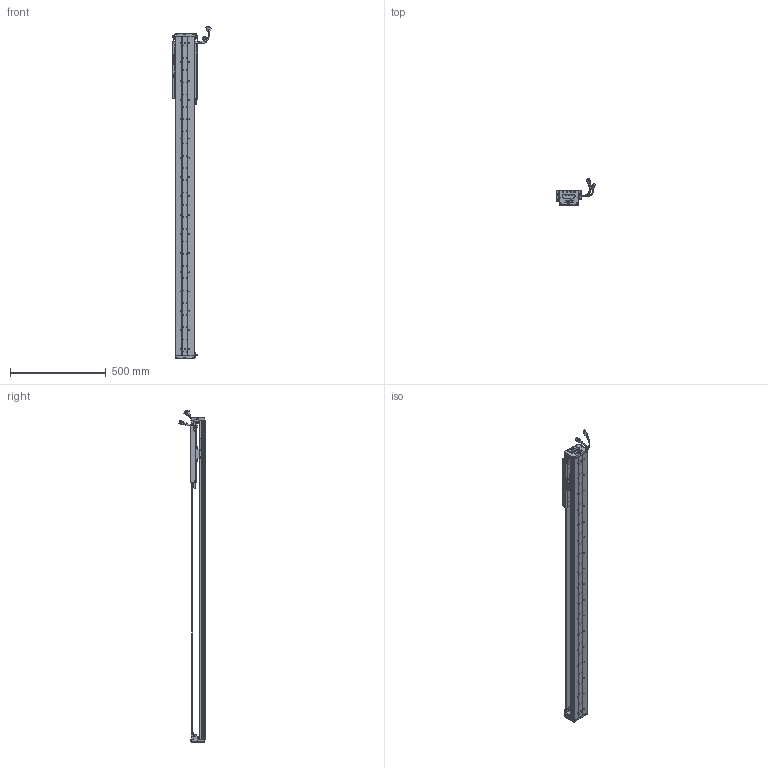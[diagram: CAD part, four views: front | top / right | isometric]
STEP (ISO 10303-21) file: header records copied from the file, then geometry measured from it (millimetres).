
FILE_DESCRIPTION (( 'STEP AP203' ), '1' );
FILE_NAME ('Z4-RY100D-1-L500-B-K.SLDASM_1300.step', '2021-05-17T03:02:46', ( '盈信电脑' ), ( '东莞市道滘镇水果街19号' ), 'SwSTEP 2.0', 'SolidWorks 2016', '' );
FILE_SCHEMA (( 'CONFIG_CONTROL_DESIGN' ));
Length unit declared in the file: millimetre
Products named in the file (36): SCREW-M1.6-3; PBU_SHEET; 080黍杅芛假蚾釱21遴; HARNESS-Part-1; Z4-RY100铝滑块（21款）; SCREW-M1.6-2; Z-RY100D詩湍奻揤裔; 覜茼ん672; PSLH080_PSLF2; Z4-RY100D-1-L500-B-K.SLDASM_1300; LABEL-Part-1; 100-Z-臏賑輸盄裔(21遴); HARNESS-Part-2; 榋妏寠巭燃_暯_M2_2; SEAL; SCALE; LABEL; SCREW-M1.7-1; SCREW-M1.6; Z-100詩湍傷裔啣; COVER; Z4-RY100D-500-倰第菁釱_1300; HOLDER0; COVER-Part-1; HARNESS; Z-RY100D覜茼んえ; SCALE-Part-2; Z4-RY100-L500詩湍90mm遵_1300; SEAL-Part-1; 140蚥薯蝶輸; SCREW-M1.6-1; SCREW-M1.7; SCALE-Part-1; SHIELDPLATE; Z-RY100D詩湍狟揤裔; 140雄赽晤鎢ん堤盄
Assembly tree (43 placements, depth 4):
  Z4-RY100D-1-L500-B-K.SLDASM_1300
    Z4-RY100D-500-倰第菁釱_1300
    Z4-RY100铝滑块（21款）
    PSLH080_PSLF2
      SCALE
        SCALE-Part-1
        SCALE-Part-2
      HARNESS
        HARNESS-Part-1
        HARNESS-Part-2
      LABEL
        LABEL-Part-1
      COVER
        COVER-Part-1
      SEAL
        SEAL-Part-1
      榋妏寠巭燃_暯_M2_2
      SHIELDPLATE
      SCREW-M1.7
      SCREW-M1.7-1
      PBU_SHEET
      SCREW-M1.6
      SCREW-M1.6-1
      SCREW-M1.6-2
      SCREW-M1.6-3
      HOLDER0
    080黍杅芛假蚾釱21遴
    Z-100詩湍傷裔啣  x2
    140蚥薯蝶輸  x2
    覜茼ん672  x3
    Z-RY100D覜茼んえ  x3
    100-Z-臏賑輸盄裔(21遴)
    140雄赽晤鎢ん堤盄
    Z4-RY100-L500詩湍90mm遵_1300
    Z-RY100D詩湍狟揤裔  x2
    Z-RY100D詩湍奻揤裔  x2
Bounding box: 205.83 x 136.11 x 1735.43 mm (x, y, z)
Volume: 3501905.5 mm3; surface area: 1342880.8 mm2
Topology: 38 solids, 38 shells, 2762 faces, 7369 edges, 4680 vertices
Faces by surface type: cylinder 1266, plane 1148, cone 226, torus 69, bspline 53
Entity records: 77161 total; most frequent: CARTESIAN_POINT 16206, DIRECTION 12325, ORIENTED_EDGE 11618, EDGE_CURVE 5809, AXIS2_PLACEMENT_3D 4579, VERTEX_POINT 3748, VECTOR 3167, LINE 3167
